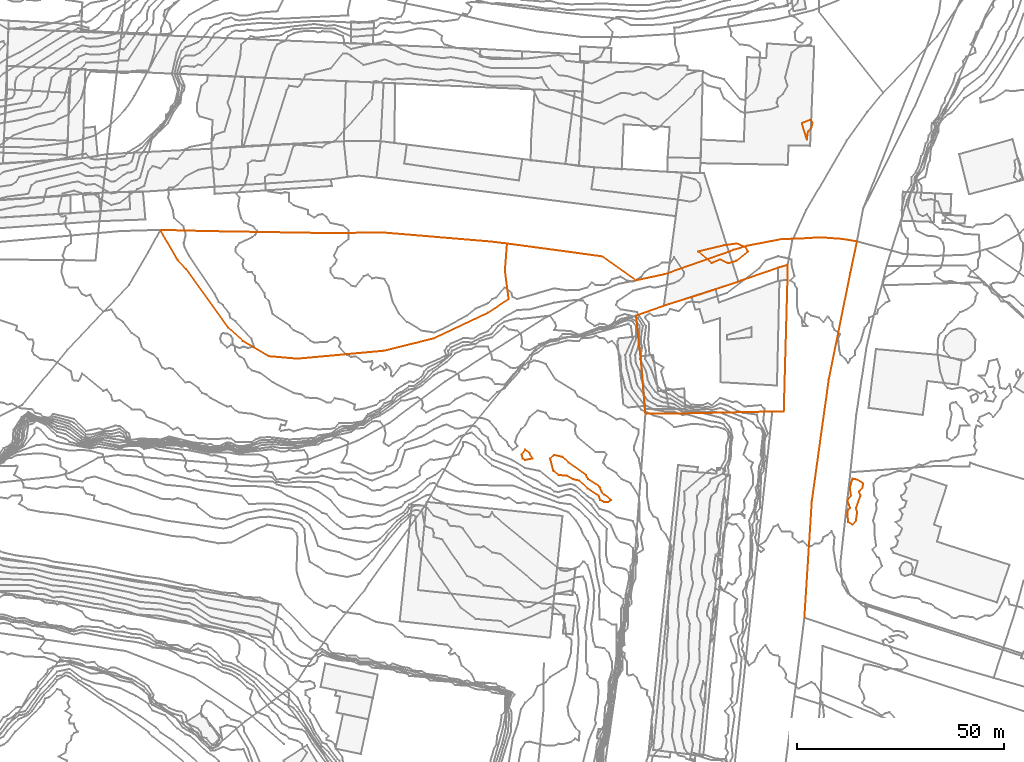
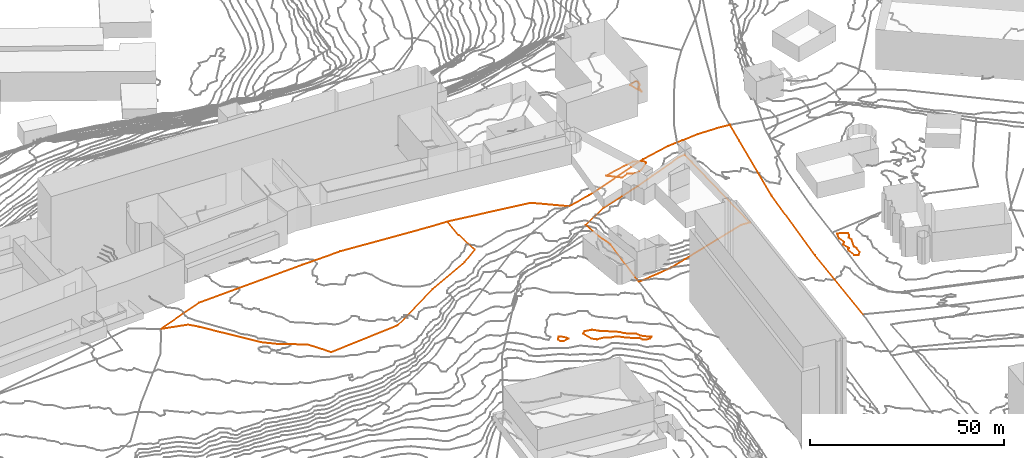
# Not in any storey, part 210 of 419: 11 proxies.
"""IFC2X3 model written with IfcOpenShell, lengths in metres."""

import ifcopenshell
import ifcopenshell.guid

model = None  # the IFC model being written
_history = None  # IfcOwnerHistory: only IFC2X3 demands one
_inside = {}  # id of a spatial element -> (the spatial element, [elements in it])
_under = {}  # id of a project, library or spatial element -> (it, [spatial elements below it])
_declared = {}  # id of a project -> (the project, [libraries it declares])
_typed = {}  # id of a type object -> (the type object, [elements of that type])
_made_of = {}  # id of a material, layer set ... -> (it, [elements and type objects made of it])


def new_model(schema):
    """Start an empty IFC model of exactly this schema.

    Asked for "IFC4X3", IfcOpenShell would pick the latest addendum, in which some entities
    have other attributes; the version numbers below select the first issue.
    IFC2X3 requires an IfcOwnerHistory on every rooted entity: one is made here for all.
    """
    global model, _history
    if schema == "IFC4X3":
        model = ifcopenshell.file(schema_version=(4, 3, 0, 0))
    else:
        model = ifcopenshell.file(schema=schema)
    _inside.clear()
    _under.clear()
    _declared.clear()
    _typed.clear()
    _made_of.clear()
    _history = None
    if model.schema == "IFC2X3":
        org = make("IfcOrganization", Name="unknown")
        user = make(
            "IfcPersonAndOrganization",
            ThePerson=make("IfcPerson", FamilyName="unknown"),
            TheOrganization=org,
        )
        app = make(
            "IfcApplication",
            ApplicationDeveloper=org,
            Version="unknown",
            ApplicationFullName="unknown",
            ApplicationIdentifier="unknown",
        )
        _history = make(
            "IfcOwnerHistory",
            OwningUser=user,
            OwningApplication=app,
            ChangeAction="ADDED",
            CreationDate=0,
        )
    return model


def make(cls, **values):
    """One entity of the class cls with the attributes given. An attribute that is None is left unset."""
    return model.create_entity(
        cls, **{name: value for name, value in values.items() if value is not None}
    )


def entity(cls, *values):
    """Any entity or typed value of the class cls, its attributes in the order of the schema. None: left unset."""
    e = model.create_entity(cls)
    for i, value in enumerate(values):
        if value is not None:
            e[i] = value
    return e


def rooted(cls, **values):
    """An entity with a GlobalId (a new one), such as an element, a storey or a relation."""
    return make(cls, GlobalId=ifcopenshell.guid.new(), OwnerHistory=_history, **values)


def si_unit(unit_type, name, prefix=None):
    """IfcSIUnit, for example si_unit("LENGTHUNIT", "METRE", prefix="MILLI")."""
    return make("IfcSIUnit", UnitType=unit_type, Prefix=prefix, Name=name)


def assignment(units):
    """IfcUnitAssignment: the units of a project."""
    return None if units is None else make("IfcUnitAssignment", Units=units)


def point(xyz):
    """IfcCartesianPoint."""
    return None if xyz is None else make("IfcCartesianPoint", Coordinates=xyz)


def direction(xyz):
    """IfcDirection."""
    return None if xyz is None else make("IfcDirection", DirectionRatios=xyz)


def frame(location, z_axis=None, x_axis=None):
    """IfcAxis2Placement3D, a coordinate frame: its origin and axes. An axis left out is left unset."""
    return make(
        "IfcAxis2Placement3D",
        Location=point(location),
        Axis=direction(z_axis),
        RefDirection=direction(x_axis),
    )


def origin_with_axes():
    """The frame at (0, 0, 0) with the z axis (0, 0, 1) and the x axis (1, 0, 0) written out."""
    return frame((0.0, 0.0, 0.0), z_axis=(0.0, 0.0, 1.0), x_axis=(1.0, 0.0, 0.0))


def place(relative_to, where):
    """IfcLocalPlacement: puts the frame where relative to a parent placement (None: the world)."""
    return make(
        "IfcLocalPlacement", PlacementRelTo=relative_to, RelativePlacement=where
    )


def context(
    kind, dimensions, precision=None, world=None, true_north=None, identifier=None
):
    """IfcGeometricRepresentationContext, for example the 3D "Model" context."""
    return make(
        "IfcGeometricRepresentationContext",
        ContextIdentifier=identifier,
        ContextType=kind,
        CoordinateSpaceDimension=dimensions,
        Precision=precision,
        WorldCoordinateSystem=world,
        TrueNorth=true_north,
    )


def subcontext(parent, identifier, kind, view, scale=None):
    """IfcGeometricRepresentationSubContext, for example "Body" below "Model"."""
    return make(
        "IfcGeometricRepresentationSubContext",
        ContextIdentifier=identifier,
        ContextType=kind,
        ParentContext=parent,
        TargetScale=scale,
        TargetView=view,
    )


def project(units=None, contexts=None):
    """IfcProject with its units and contexts."""
    return rooted(
        "IfcProject",
        Name="project",
        RepresentationContexts=contexts,
        UnitsInContext=assignment(units),
    )


def shape(context_of_items, identifier, shape_type, items):
    """IfcShapeRepresentation: the items that make up one representation, for example the "Body"."""
    return make(
        "IfcShapeRepresentation",
        ContextOfItems=context_of_items,
        RepresentationIdentifier=identifier,
        RepresentationType=shape_type,
        Items=items,
    )


def made_of(thing, what):
    """Note that an element or type object is made of a material, layer set ...; save() writes the relation."""
    if what is not None:
        _made_of.setdefault(what.id(), (what, []))[1].append(thing)
    return thing


def element(
    cls,
    number,
    at=None,
    inside=None,
    cuts=None,
    type_object=None,
    material=None,
    context=None,
    identifier="Body",
    shape_type=None,
    held_by="IfcProductDefinitionShape",
    body=None,
    shapes=None,
    **own,
):
    """One element of the class cls, such as IfcWall. Its Tag is "e" and its number.

    at: its placement. inside: the storey or other place that contains it. cuts: it is an
    opening in that element (IfcRelVoidsElement). A single representation is given by context,
    identifier, shape_type and body (its items); several are given by shapes. held_by: the class
    of the entity that holds the representations. save() writes the other relations.
    """
    e = rooted(cls, Tag="e%d" % number, ObjectPlacement=at, **own)
    if body is not None:
        shapes = [shape(context, identifier, shape_type, body)]
    if shapes is not None:
        e.Representation = make(held_by, Representations=shapes)
    if inside is not None:
        _inside.setdefault(inside.id(), (inside, []))[1].append(e)
    if cuts is not None:
        rooted(
            "IfcRelVoidsElement", RelatingBuildingElement=cuts, RelatedOpeningElement=e
        )
    if type_object is not None:
        _typed.setdefault(type_object.id(), (type_object, []))[1].append(e)
    return made_of(e, material)


def aggregate(whole, parts):
    """IfcRelAggregates: a whole, such as a stair, and the parts it consists of."""
    return rooted("IfcRelAggregates", RelatingObject=whole, RelatedObjects=parts)


def save(model, path):
    """Write the relations noted so far, then the file.

    IfcRelAggregates (storeys below a building ...), IfcRelContainedInSpatialStructure (elements
    in a storey), IfcRelDefinesByType, IfcRelAssociatesMaterial and IfcRelDeclares: one each for
    every whole, place, type object, material and project.
    """
    for whole, parts in _under.values():
        aggregate(whole, parts)
    for where, things in _inside.values():
        rooted(
            "IfcRelContainedInSpatialStructure",
            RelatedElements=things,
            RelatingStructure=where,
        )
    for kind, things in _typed.values():
        rooted("IfcRelDefinesByType", RelatedObjects=things, RelatingType=kind)
    for what, things in _made_of.values():
        rooted("IfcRelAssociatesMaterial", RelatedObjects=things, RelatingMaterial=what)
    for by, libraries in _declared.values():
        rooted("IfcRelDeclares", RelatingContext=by, RelatedDefinitions=libraries)
    model.write(path)


model = new_model("IFC2X3")

# Units and contexts
model_context = context("Model", 3, precision=1e-05, world=origin_with_axes())
body_context = subcontext(model_context, "Body", "Model", "MODEL_VIEW")
ifc_project = project(units=[si_unit("AREAUNIT", "SQUARE_METRE"), si_unit("LENGTHUNIT", "METRE")], contexts=[model_context])

# Proxies
proxy_1_placement = place(None, frame((621.6920204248, 299.7976909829, 76.6), z_axis=(0.0, 0.0, 1.0), x_axis=(1.0, 0.0, 0.0)))
element("IfcBuildingElementProxy", 1, at=proxy_1_placement, Name="Route 84", ObjectType="NOTDEFINED", context=body_context, shape_type="GeometricCurveSet", body=[
    entity("IfcGeometricCurveSet", [entity("IfcPolyline", [entity("IfcCartesianPoint", [0.0, 0.0, 0.0]), entity("IfcCartesianPoint", [23.0, -3.1000000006, -0.3]), entity("IfcCartesianPoint", [31.1, -8.9000000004, -0.7])])]),
])
proxy_2_placement = place(None, frame((693.4920204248, 209.3976909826, 77.0), z_axis=(0.0, 0.0, 1.0), x_axis=(1.0, 0.0, 0.0)))
element("IfcBuildingElementProxy", 2, at=proxy_2_placement, Name="Route 93", ObjectType="NOTDEFINED", context=body_context, shape_type="GeometricCurveSet", body=[
    entity("IfcGeometricCurveSet", [entity("IfcPolyline", [entity("IfcCartesianPoint", [0.0, 0.0, 0.0]), entity("IfcCartesianPoint", [1.7999999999, 28.0999999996, 1.0]), entity("IfcCartesianPoint", [5.9, 57.5999999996, 0.5]), entity("IfcCartesianPoint", [11.1, 83.2999999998, 0.4]), entity("IfcCartesianPoint", [12.7, 90.9000000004, 0.2])])]),
])
proxy_3_placement = place(None, frame((537.9920204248, 303.0976909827, 70.0), z_axis=(0.0, 0.0, 1.0), x_axis=(1.0, 0.0, 0.0)))
element("IfcBuildingElementProxy", 3, at=proxy_3_placement, Name="Route 171", ObjectType="NOTDEFINED", context=body_context, shape_type="GeometricCurveSet", body=[
    entity("IfcGeometricCurveSet", [entity("IfcPolyline", [entity("IfcCartesianPoint", [0.0, 0.0, 0.0]), entity("IfcCartesianPoint", [4.1, -7.2000000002, 4.3]), entity("IfcCartesianPoint", [6.2, -9.4000000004, 4.2]), entity("IfcCartesianPoint", [16.4, -23.6000000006, 4.4]), entity("IfcCartesianPoint", [19.9, -26.7999999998, 4.5]), entity("IfcCartesianPoint", [26.1, -30.5, 4.5]), entity("IfcCartesianPoint", [33.0, -31.1000000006, 0.0]), entity("IfcCartesianPoint", [53.9, -29.2000000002, 0.0]), entity("IfcCartesianPoint", [66.0, -26.2000000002, 5.4]), entity("IfcCartesianPoint", [79.1, -20.0, 5.5]), entity("IfcCartesianPoint", [84.1, -16.7000000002, 5.7]), entity("IfcCartesianPoint", [83.2, -9.7999999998, 6.5]), entity("IfcCartesianPoint", [83.7, -3.2999999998, 6.6])])]),
])
proxy_4_placement = place(None, frame((537.9920204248, 303.0976909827, 70.0), z_axis=(0.0, 0.0, 1.0), x_axis=(1.0, 0.0, 0.0)))
element("IfcBuildingElementProxy", 4, at=proxy_4_placement, Name="Route 185", ObjectType="NOTDEFINED", context=body_context, shape_type="GeometricCurveSet", body=[
    entity("IfcGeometricCurveSet", [entity("IfcPolyline", [entity("IfcCartesianPoint", [0.0, 0.0, 0.0]), entity("IfcCartesianPoint", [11.4, -0.2999999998, 4.5]), entity("IfcCartesianPoint", [41.9, -0.7999999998, 6.1]), entity("IfcCartesianPoint", [53.2999999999, -0.6000000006, 6.2]), entity("IfcCartesianPoint", [79.6, -2.7999999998, 6.3]), entity("IfcCartesianPoint", [83.7, -3.2999999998, 6.6])])]),
])
proxy_5_placement = place(None, frame((652.7920204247, 290.8976909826, 75.9), z_axis=(0.0, 0.0, 1.0), x_axis=(1.0, 0.0, 0.0)))
element("IfcBuildingElementProxy", 5, at=proxy_5_placement, Name="Route 188", ObjectType="NOTDEFINED", context=body_context, shape_type="GeometricCurveSet", body=[
    entity("IfcGeometricCurveSet", [entity("IfcPolyline", [entity("IfcCartesianPoint", [0.0, 0.0, 0.0]), entity("IfcCartesianPoint", [6.9, 1.5, 0.2]), entity("IfcCartesianPoint", [8.1000000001, 1.9000000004, 0.2]), entity("IfcCartesianPoint", [22.6000000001, 7.0, 0.2]), entity("IfcCartesianPoint", [23.6000000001, 7.4000000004, 0.2]), entity("IfcCartesianPoint", [27.0, 8.4000000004, 0.3]), entity("IfcCartesianPoint", [35.3, 10.0, 0.6]), entity("IfcCartesianPoint", [39.7000000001, 10.0999999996, 0.8]), entity("IfcCartesianPoint", [44.5, 10.4000000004, 0.9]), entity("IfcCartesianPoint", [50.0, 10.0, 1.1]), entity("IfcCartesianPoint", [53.4, 9.4000000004, 1.3])])]),
])
proxy_6_placement = place(None, frame((652.8520204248, 282.4076909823, 75.1022279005), z_axis=(0.0, 0.0, 1.0), x_axis=(1.0, 0.0, 0.0)))
element("IfcBuildingElementProxy", 6, at=proxy_6_placement, Name="Cadastre 120", ObjectType="NOTDEFINED", context=body_context, shape_type="GeometricCurveSet", body=[
    entity("IfcGeometricCurveSet", [entity("IfcPolyline", [entity("IfcCartesianPoint", [36.59, 12.2400000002, 1.9630235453]), entity("IfcCartesianPoint", [36.5700000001, 8.7200000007, 1.9482816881]), entity("IfcCartesianPoint", [35.6800000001, -23.1499999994, 2.3741213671]), entity("IfcCartesianPoint", [32.91, -23.1699999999, 2.597400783]), entity("IfcCartesianPoint", [11.97, -23.6200000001, -3.1646779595]), entity("IfcCartesianPoint", [7.96, -23.6599999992, -3.7078782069]), entity("IfcCartesianPoint", [2.27, -23.6499999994, -4.3139553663]), entity("IfcCartesianPoint", [2.15, -22.8499999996, -4.1083704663]), entity("IfcCartesianPoint", [1.1800000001, -10.8199999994, 0.1656768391]), entity("IfcCartesianPoint", [0.62, -6.0199999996, -0.250171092]), entity("IfcCartesianPoint", [0.0, 0.0, 0.0]), entity("IfcCartesianPoint", [6.71, 2.3900000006, 1.7107123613]), entity("IfcCartesianPoint", [13.41, 4.4800000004, 1.7254525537]), entity("IfcCartesianPoint", [19.2, 6.3500000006, 1.6663142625]), entity("IfcCartesianPoint", [24.7, 8.2300000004, 1.9293736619]), entity("IfcCartesianPoint", [34.3, 11.5500000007, 2.2467016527]), entity("IfcCartesianPoint", [36.59, 12.2400000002, 1.9630235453])])]),
])
proxy_7_placement = place(None, frame((692.8919899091, 328.8976909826, 77.0), z_axis=(0.0, 0.0, 1.0), x_axis=(1.0, 0.0, 0.0)))
element("IfcBuildingElementProxy", 7, at=proxy_7_placement, Name="Contour 77.0 m", ObjectType="NOTDEFINED", context=body_context, shape_type="GeometricCurveSet", body=[
    entity("IfcGeometricCurveSet", [entity("IfcPolyline", [entity("IfcCartesianPoint", [1.2000430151, -4.0, 0.0]), entity("IfcCartesianPoint", [0.0, 0.0, 0.0]), entity("IfcCartesianPoint", [2.2000305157, 0.8571117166, 0.0]), entity("IfcCartesianPoint", [2.5529611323, 0.0, 0.0]), entity("IfcCartesianPoint", [2.3538540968, -1.0, 0.0]), entity("IfcCartesianPoint", [1.4856980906, -2.0, 0.0]), entity("IfcCartesianPoint", [1.2000430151, -4.0, 0.0])])]),
])
proxy_8_placement = place(None, frame((667.8419727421, 297.8976909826, 76.0), z_axis=(0.0, 0.0, 1.0), x_axis=(1.0, 0.0, 0.0)))
element("IfcBuildingElementProxy", 8, at=proxy_8_placement, Name="Contour 76.0 m", ObjectType="NOTDEFINED", context=body_context, shape_type="GeometricCurveSet", body=[
    entity("IfcGeometricCurveSet", [entity("IfcPolyline", [entity("IfcCartesianPoint", [9.2500476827, -2.259261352, 0.0]), entity("IfcCartesianPoint", [12.0192829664, 0.0, 0.0]), entity("IfcCartesianPoint", [11.4808123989, 1.0, 0.0]), entity("IfcCartesianPoint", [9.2500476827, 1.9189211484, 0.0]), entity("IfcCartesianPoint", [6.2500476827, 1.4897936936, 0.0]), entity("IfcCartesianPoint", [0.0, 0.0, 0.0]), entity("IfcCartesianPoint", [3.2500476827, -2.7999694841, 0.0]), entity("IfcCartesianPoint", [5.2500476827, -1.9230633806, 0.0]), entity("IfcCartesianPoint", [7.2500476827, -2.8571480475, 0.0]), entity("IfcCartesianPoint", [9.2500476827, -2.259261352, 0.0])])]),
])
proxy_9_placement = place(None, frame((625.2253368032, 248.8976909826, 69.0), z_axis=(0.0, 0.0, 1.0), x_axis=(1.0, 0.0, 0.0)))
element("IfcBuildingElementProxy", 9, at=proxy_9_placement, Name="Contour 69.0 m", ObjectType="NOTDEFINED", context=body_context, shape_type="GeometricCurveSet", body=[
    entity("IfcGeometricCurveSet", [entity("IfcPolyline", [entity("IfcCartesianPoint", [2.6359189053, -1.0, 0.0]), entity("IfcCartesianPoint", [0.8666836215, -1.3499971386, 0.0]), entity("IfcCartesianPoint", [0.2833476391, -1.0, 0.0]), entity("IfcCartesianPoint", [0.0, 0.0, 0.0]), entity("IfcCartesianPoint", [0.8666836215, 1.1111299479, 0.0]), entity("IfcCartesianPoint", [1.8666836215, 0.285667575, 0.0]), entity("IfcCartesianPoint", [2.6359189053, -1.0, 0.0])])]),
])
proxy_10_placement = place(None, frame((632.1355073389, 247.8976909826, 69.0), z_axis=(0.0, 0.0, 1.0), x_axis=(1.0, 0.0, 0.0)))
element("IfcBuildingElementProxy", 10, at=proxy_10_placement, Name="Contour 69.0 m", ObjectType="NOTDEFINED", context=body_context, shape_type="GeometricCurveSet", body=[
    entity("IfcGeometricCurveSet", [entity("IfcPolyline", [entity("IfcCartesianPoint", [14.7342861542, -10.0, 0.0]), entity("IfcCartesianPoint", [13.9565130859, -10.4666598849, 0.0]), entity("IfcCartesianPoint", [12.9565130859, -10.5142888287, 0.0]), entity("IfcCartesianPoint", [12.0564978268, -10.0, 0.0]), entity("IfcCartesianPoint", [11.7065130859, -9.0, 0.0]), entity("IfcCartesianPoint", [8.9565130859, -7.2195053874, 0.0]), entity("IfcCartesianPoint", [6.9565130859, -5.3437522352, 0.0]), entity("IfcCartesianPoint", [5.4565075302, -5.0, 0.0]), entity("IfcCartesianPoint", [3.9565130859, -4.1481491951, 0.0]), entity("IfcCartesianPoint", [1.9565130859, -4.0000031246, 0.0]), entity("IfcCartesianPoint", [0.770462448, -3.0, 0.0]), entity("IfcCartesianPoint", [0.0, 0.0, 0.0]), entity("IfcCartesianPoint", [0.9565130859, 0.8461515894, 0.0]), entity("IfcCartesianPoint", [2.9565130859, 0.3749940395, 0.0]), entity("IfcCartesianPoint", [4.3850689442, -1.0, 0.0]), entity("IfcCartesianPoint", [8.5928704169, -4.0, 0.0]), entity("IfcCartesianPoint", [9.1565130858, -5.0, 0.0]), entity("IfcCartesianPoint", [11.9565130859, -6.8461764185, 0.0]), entity("IfcCartesianPoint", [12.3731956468, -8.0, 0.0]), entity("IfcCartesianPoint", [12.9565130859, -8.7000076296, 0.0]), entity("IfcCartesianPoint", [14.7342861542, -10.0, 0.0])])]),
])
proxy_11_placement = place(None, frame((703.8598814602, 234.8976909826, 78.0), z_axis=(0.0, 0.0, 1.0), x_axis=(1.0, 0.0, 0.0)))
element("IfcBuildingElementProxy", 11, at=proxy_11_placement, Name="Contour 78.0 m", ObjectType="NOTDEFINED", context=body_context, shape_type="GeometricCurveSet", body=[
    entity("IfcGeometricCurveSet", [entity("IfcPolyline", [entity("IfcCartesianPoint", [1.2321500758, -3.0, 0.0]), entity("IfcCartesianPoint", [0.2321389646, -2.333333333, 0.0]), entity("IfcCartesianPoint", [0.0, 0.0, 0.0]), entity("IfcCartesianPoint", [0.2321389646, 0.6842147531, 0.0]), entity("IfcCartesianPoint", [0.6606948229, 1.0, 0.0]), entity("IfcCartesianPoint", [0.0607075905, 3.0, 0.0]), entity("IfcCartesianPoint", [0.8892799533, 4.0, 0.0]), entity("IfcCartesianPoint", [0.6321440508, 6.0, 0.0]), entity("IfcCartesianPoint", [1.2321389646, 8.1190532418, 0.0]), entity("IfcCartesianPoint", [2.2321389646, 7.941165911, 0.0]), entity("IfcCartesianPoint", [3.8571628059, 7.0, 0.0]), entity("IfcCartesianPoint", [3.6606948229, 6.0, 0.0]), entity("IfcCartesianPoint", [2.8684962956, 5.0, 0.0]), entity("IfcCartesianPoint", [3.1606948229, 4.0, 0.0]), entity("IfcCartesianPoint", [2.1210090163, 1.0, 0.0]), entity("IfcCartesianPoint", [2.3987844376, 0.0, 0.0]), entity("IfcCartesianPoint", [2.0783153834, -2.0, 0.0]), entity("IfcCartesianPoint", [1.2321500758, -3.0, 0.0])])]),
])

save(model, "model.ifc")
